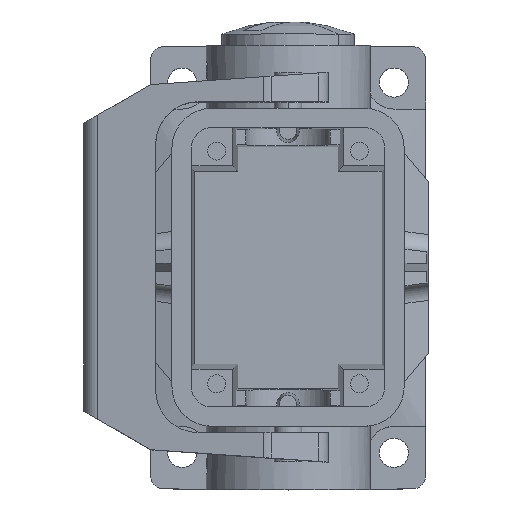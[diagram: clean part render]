
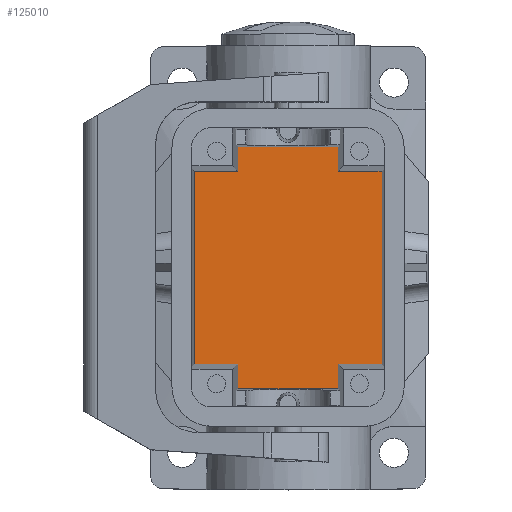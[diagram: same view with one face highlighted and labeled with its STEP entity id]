
A CAD part, top view. The second image highlights one B-rep face of the part: STEP entity #125010.
In plain terms, the highlighted planar face has unit normal (0, 0, 1) as drawn and (0, 1, 0) by its records, which use the part's own axes.
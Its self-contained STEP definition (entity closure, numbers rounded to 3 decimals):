
#123980=CARTESIAN_POINT('',(-22.176,-19.4,
21.7));
#123990=DIRECTION('',(0.,1.,0.));
#124000=DIRECTION('',(1.,0.,0.));
#124010=AXIS2_PLACEMENT_3D('',#123980,#123990,#124000);
#124020=PLANE('',#124010);
#124030=CARTESIAN_POINT('',(-30.751,-19.4,
9.516));
#124040=DIRECTION('',(-1.,0.,0.));
#124050=VECTOR('',#124040,1.);
#124060=LINE('',#124030,#124050);
#124070=CARTESIAN_POINT('',(-18.258,-19.4,
9.516));
#124080=VERTEX_POINT('',#124070);
#124090=CARTESIAN_POINT('',(-22.896,-19.4,
9.516));
#124100=VERTEX_POINT('',#124090);
#124110=EDGE_CURVE('',#124080,#124100,#124060,.T.);
#124120=ORIENTED_EDGE('',*,*,#124110,.F.);
#124130=CARTESIAN_POINT('',(-22.896,-19.4,
26.7));
#124140=DIRECTION('',(0.,0.,1.));
#124150=VECTOR('',#124140,1.);
#124160=LINE('',#124130,#124150);
#124170=CARTESIAN_POINT('',(-22.896,-19.4,
-9.516));
#124180=VERTEX_POINT('',#124170);
#124190=EDGE_CURVE('',#124180,#124100,#124160,.T.);
#124200=ORIENTED_EDGE('',*,*,#124190,.T.);
#124210=CARTESIAN_POINT('',(-30.751,-19.4,
-9.516));
#124220=DIRECTION('',(-1.,0.,0.));
#124230=VECTOR('',#124220,1.);
#124240=LINE('',#124210,#124230);
#124250=CARTESIAN_POINT('',(-18.258,-19.4,
-9.516));
#124260=VERTEX_POINT('',#124250);
#124270=EDGE_CURVE('',#124260,#124180,#124240,.T.);
#124280=ORIENTED_EDGE('',*,*,#124270,.T.);
#124290=CARTESIAN_POINT('',(-18.258,-19.4,
26.7));
#124300=DIRECTION('',(0.,0.,1.));
#124310=VECTOR('',#124300,1.);
#124320=LINE('',#124290,#124310);
#124330=CARTESIAN_POINT('',(-18.258,-19.4,
-17.764));
#124340=VERTEX_POINT('',#124330);
#124350=EDGE_CURVE('',#124340,#124260,#124320,.T.);
#124360=ORIENTED_EDGE('',*,*,#124350,.T.);
#124370=CARTESIAN_POINT('',(-30.751,-19.4,
-17.764));
#124380=DIRECTION('',(1.,0.,0.));
#124390=VECTOR('',#124380,1.);
#124400=LINE('',#124370,#124390);
#124410=CARTESIAN_POINT('',(18.258,-19.4,
-17.764));
#124420=VERTEX_POINT('',#124410);
#124430=EDGE_CURVE('',#124340,#124420,#124400,.T.);
#124440=ORIENTED_EDGE('',*,*,#124430,.F.);
#124450=CARTESIAN_POINT('',(18.258,-19.4,
26.7));
#124460=DIRECTION('',(0.,0.,-1.));
#124470=VECTOR('',#124460,1.);
#124480=LINE('',#124450,#124470);
#124490=CARTESIAN_POINT('',(18.258,-19.4,
-9.516));
#124500=VERTEX_POINT('',#124490);
#124510=EDGE_CURVE('',#124500,#124420,#124480,.T.);
#124520=ORIENTED_EDGE('',*,*,#124510,.T.);
#124530=CARTESIAN_POINT('',(-30.751,-19.4,
-9.516));
#124540=DIRECTION('',(-1.,0.,0.));
#124550=VECTOR('',#124540,1.);
#124560=LINE('',#124530,#124550);
#124570=CARTESIAN_POINT('',(22.896,-19.4,
-9.516));
#124580=VERTEX_POINT('',#124570);
#124590=EDGE_CURVE('',#124580,#124500,#124560,.T.);
#124600=ORIENTED_EDGE('',*,*,#124590,.T.);
#124610=CARTESIAN_POINT('',(22.896,-19.4,
26.7));
#124620=DIRECTION('',(0.,0.,1.));
#124630=VECTOR('',#124620,1.);
#124640=LINE('',#124610,#124630);
#124650=CARTESIAN_POINT('',(22.896,-19.4,
9.516));
#124660=VERTEX_POINT('',#124650);
#124670=EDGE_CURVE('',#124580,#124660,#124640,.T.);
#124680=ORIENTED_EDGE('',*,*,#124670,.F.);
#124690=CARTESIAN_POINT('',(-30.751,-19.4,
9.516));
#124700=DIRECTION('',(1.,0.,0.));
#124710=VECTOR('',#124700,1.);
#124720=LINE('',#124690,#124710);
#124730=CARTESIAN_POINT('',(18.258,-19.4,
9.516));
#124740=VERTEX_POINT('',#124730);
#124750=EDGE_CURVE('',#124740,#124660,#124720,.T.);
#124760=ORIENTED_EDGE('',*,*,#124750,.T.);
#124770=CARTESIAN_POINT('',(18.258,-19.4,
26.7));
#124780=DIRECTION('',(0.,0.,-1.));
#124790=VECTOR('',#124780,1.);
#124800=LINE('',#124770,#124790);
#124810=CARTESIAN_POINT('',(18.258,-19.4,
17.764));
#124820=VERTEX_POINT('',#124810);
#124830=EDGE_CURVE('',#124820,#124740,#124800,.T.);
#124840=ORIENTED_EDGE('',*,*,#124830,.T.);
#124850=CARTESIAN_POINT('',(-30.751,-19.4,
17.764));
#124860=DIRECTION('',(-1.,0.,0.));
#124870=VECTOR('',#124860,1.);
#124880=LINE('',#124850,#124870);
#124890=CARTESIAN_POINT('',(-18.258,-19.4,
17.764));
#124900=VERTEX_POINT('',#124890);
#124910=EDGE_CURVE('',#124820,#124900,#124880,.T.);
#124920=ORIENTED_EDGE('',*,*,#124910,.F.);
#124930=CARTESIAN_POINT('',(-18.258,-19.4,
26.7));
#124940=DIRECTION('',(0.,0.,1.));
#124950=VECTOR('',#124940,1.);
#124960=LINE('',#124930,#124950);
#124970=EDGE_CURVE('',#124080,#124900,#124960,.T.);
#124980=ORIENTED_EDGE('',*,*,#124970,.T.);
#124990=EDGE_LOOP('',(#124980,#124920,#124840,#124760,#124680,#124600,
#124520,#124440,#124360,#124280,#124200,#124120));
#125000=FACE_OUTER_BOUND('',#124990,.T.);
#125010=ADVANCED_FACE('',(#125000),#124020,.T.);
